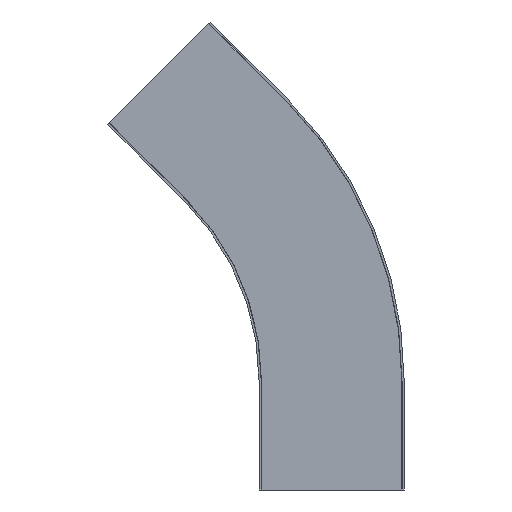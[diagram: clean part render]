
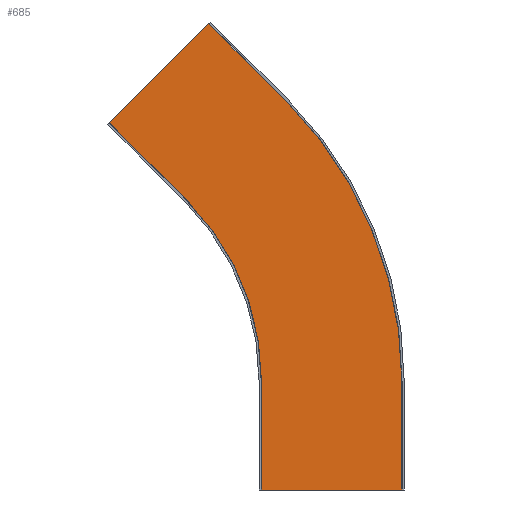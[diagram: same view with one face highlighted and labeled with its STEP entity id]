
A CAD part, front view. The second image highlights one B-rep face of the part: STEP entity #685.
In plain terms, the highlighted planar face has unit normal (0, -1, 0).
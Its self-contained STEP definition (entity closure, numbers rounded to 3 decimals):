
#81 = LINE ( 'NONE', #3134, #632 ) ;
#96 = EDGE_CURVE ( 'NONE', #2508, #2586, #1744, .T. ) ;
#121 = VECTOR ( 'NONE', #1240, 1000. ) ;
#137 = DIRECTION ( 'NONE',  ( 0., -1., 0. ) ) ;
#274 = ORIENTED_EDGE ( 'NONE', *, *, #1566, .T. ) ;
#390 = VERTEX_POINT ( 'NONE', #1631 ) ;
#419 = CIRCLE ( 'NONE', #3041, 546.65 ) ;
#438 = VERTEX_POINT ( 'NONE', #1209 ) ;
#467 = ORIENTED_EDGE ( 'NONE', *, *, #2395, .T. ) ;
#497 = CARTESIAN_POINT ( 'NONE',  ( -200.144, -42., 399.856 ) ) ;
#568 = LINE ( 'NONE', #2848, #3065 ) ;
#632 = VECTOR ( 'NONE', #740, 1000. ) ;
#685 = ADVANCED_FACE ( 'NONE', ( #832 ), #3057, .T. ) ;
#710 = CARTESIAN_POINT ( 'NONE',  ( -96.65, -42., 0. ) ) ;
#740 = DIRECTION ( 'NONE',  ( -0.707, 0., -0.707 ) ) ;
#769 = EDGE_CURVE ( 'Edge18', #1070, #1408, #419, .T. ) ;
#774 = CARTESIAN_POINT ( 'NONE',  ( 96.65, -42., 150. ) ) ;
#803 = VERTEX_POINT ( 'NONE', #2059 ) ;
#824 = DIRECTION ( 'NONE',  ( 0., 0., -1. ) ) ;
#832 = FACE_OUTER_BOUND ( 'NONE', #1605, .T. ) ;
#868 = DIRECTION ( 'NONE',  ( 0., -1., 0. ) ) ;
#970 = CARTESIAN_POINT ( 'NONE',  ( 96.65, -42., 0. ) ) ;
#973 = LINE ( 'NONE', #774, #121 ) ;
#1002 = ORIENTED_EDGE ( 'NONE', *, *, #96, .F. ) ;
#1070 = VERTEX_POINT ( 'NONE', #1917 ) ;
#1141 = DIRECTION ( 'NONE',  ( 0., -1., 0. ) ) ;
#1157 = DIRECTION ( 'NONE',  ( 0., 0., -1. ) ) ;
#1209 = CARTESIAN_POINT ( 'NONE',  ( -169.526, -42., 642.606 ) ) ;
#1240 = DIRECTION ( 'NONE',  ( 0., 0., -1. ) ) ;
#1275 = VECTOR ( 'NONE', #2164, 1000. ) ;
#1348 = DIRECTION ( 'NONE',  ( 1., 0., 0. ) ) ;
#1357 = VECTOR ( 'NONE', #2580, 1000. ) ;
#1406 = EDGE_CURVE ( 'NONE', #2472, #390, #1470, .T. ) ;
#1408 = VERTEX_POINT ( 'NONE', #3067 ) ;
#1416 = DIRECTION ( 'NONE',  ( 0., 0., -1. ) ) ;
#1470 = LINE ( 'NONE', #3053, #1357 ) ;
#1489 = EDGE_CURVE ( 'Edge42', #1408, #438, #1927, .T. ) ;
#1566 = EDGE_CURVE ( 'NONE', #438, #390, #81, .T. ) ;
#1605 = EDGE_LOOP ( 'NONE', ( #1002, #3061, #3125, #2469, #274, #2307, #2464, #467 ) ) ;
#1606 = AXIS2_PLACEMENT_3D ( 'NONE', #2553, #868, #1348 ) ;
#1631 = CARTESIAN_POINT ( 'NONE',  ( -306.21, -42., 505.922 ) ) ;
#1744 = LINE ( 'NONE', #710, #2423 ) ;
#1917 = CARTESIAN_POINT ( 'NONE',  ( 96.65, -42., 150. ) ) ;
#1927 = LINE ( 'NONE', #2197, #1275 ) ;
#2031 = EDGE_CURVE ( 'NONE', #1070, #2508, #973, .T. ) ;
#2059 = CARTESIAN_POINT ( 'NONE',  ( -96.65, -42., 150. ) ) ;
#2164 = DIRECTION ( 'NONE',  ( -0.707, 0., 0.707 ) ) ;
#2197 = CARTESIAN_POINT ( 'NONE',  ( -63.46, -42., 536.54 ) ) ;
#2307 = ORIENTED_EDGE ( 'NONE', *, *, #1406, .F. ) ;
#2372 = CARTESIAN_POINT ( 'NONE',  ( -450., -42., 150. ) ) ;
#2395 = EDGE_CURVE ( 'NONE', #803, #2586, #568, .T. ) ;
#2416 = DIRECTION ( 'NONE',  ( -1., 0., 0. ) ) ;
#2423 = VECTOR ( 'NONE', #2416, 1000. ) ;
#2441 = CARTESIAN_POINT ( 'NONE',  ( -96.65, -42., 0. ) ) ;
#2464 = ORIENTED_EDGE ( 'NONE', *, *, #3018, .F. ) ;
#2469 = ORIENTED_EDGE ( 'NONE', *, *, #1489, .T. ) ;
#2472 = VERTEX_POINT ( 'NONE', #497 ) ;
#2508 = VERTEX_POINT ( 'NONE', #970 ) ;
#2538 = CARTESIAN_POINT ( 'NONE',  ( -450., -42., 150. ) ) ;
#2553 = CARTESIAN_POINT ( 'NONE',  ( -96.65, -42., 150. ) ) ;
#2580 = DIRECTION ( 'NONE',  ( -0.707, 0., 0.707 ) ) ;
#2586 = VERTEX_POINT ( 'NONE', #2441 ) ;
#2734 = AXIS2_PLACEMENT_3D ( 'NONE', #2372, #1141, #1416 ) ;
#2848 = CARTESIAN_POINT ( 'NONE',  ( -96.65, -42., 150. ) ) ;
#3018 = EDGE_CURVE ( 'NONE', #803, #2472, #3056, .T. ) ;
#3041 = AXIS2_PLACEMENT_3D ( 'NONE', #2538, #137, #824 ) ;
#3053 = CARTESIAN_POINT ( 'NONE',  ( -200.144, -42., 399.856 ) ) ;
#3056 = CIRCLE ( 'NONE', #2734, 353.35 ) ;
#3057 = PLANE ( 'NONE',  #1606 ) ;
#3061 = ORIENTED_EDGE ( 'NONE', *, *, #2031, .F. ) ;
#3065 = VECTOR ( 'NONE', #1157, 1000. ) ;
#3067 = CARTESIAN_POINT ( 'NONE',  ( -63.46, -42., 536.54 ) ) ;
#3125 = ORIENTED_EDGE ( 'NONE', *, *, #769, .T. ) ;
#3134 = CARTESIAN_POINT ( 'NONE',  ( -306.21, -42., 505.922 ) ) ;
